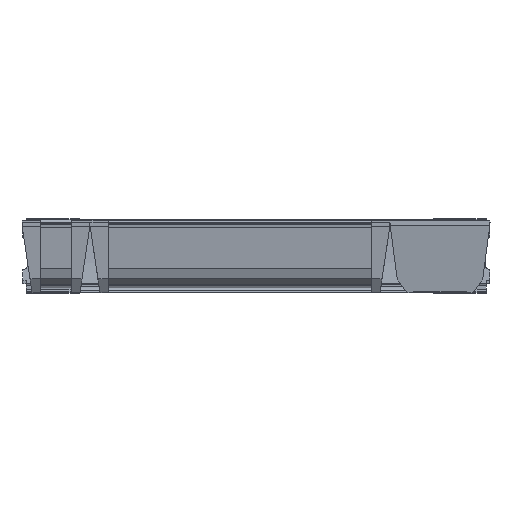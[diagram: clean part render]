
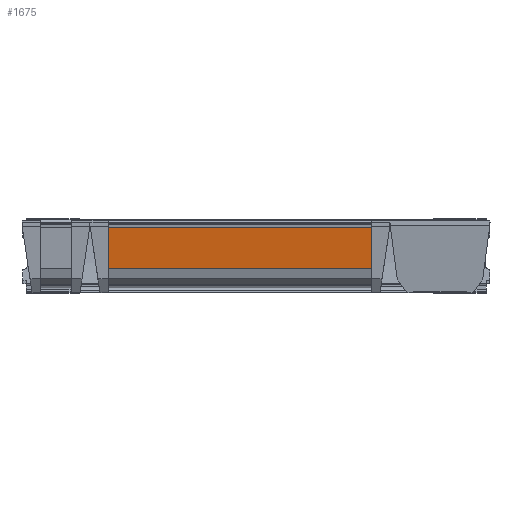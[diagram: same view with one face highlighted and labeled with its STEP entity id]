
A CAD part, left-side view. The second image highlights one B-rep face of the part: STEP entity #1675.
In plain terms, the highlighted planar face has unit normal (-0.991, 0, -0.131).
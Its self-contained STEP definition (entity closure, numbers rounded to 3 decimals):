
#128 = AXIS2_PLACEMENT_3D ( 'NONE', #6803, #6828, #6831 ) ;
#1675 = ADVANCED_FACE ( 'NONE', ( #35477 ), #6761, .F. ) ;
#1890 = ORIENTED_EDGE ( 'NONE', *, *, #52773, .F. ) ;
#1898 = ORIENTED_EDGE ( 'NONE', *, *, #52761, .F. ) ;
#1900 = ORIENTED_EDGE ( 'NONE', *, *, #52767, .T. ) ;
#1902 = ORIENTED_EDGE ( 'NONE', *, *, #52778, .F. ) ;
#6761 = PLANE ( 'NONE',  #128 ) ;
#6803 = CARTESIAN_POINT ( 'NONE',  ( 8.199, 351., 21.942 ) ) ;
#6828 = DIRECTION ( 'NONE',  ( 0.991, 0., 0.131 ) ) ;
#6831 = DIRECTION ( 'NONE',  ( 0.131, 0., -0.991 ) ) ;
#23907 = LINE ( 'NONE', #39297, #23916 ) ;
#23916 = VECTOR ( 'NONE', #39301, 1000. ) ;
#23919 = LINE ( 'NONE', #39298, #23927 ) ;
#23927 = VECTOR ( 'NONE', #39314, 1000. ) ;
#23934 = LINE ( 'NONE', #39320, #23936 ) ;
#23936 = VECTOR ( 'NONE', #39329, 1000. ) ;
#23943 = LINE ( 'NONE', #39328, #23945 ) ;
#23945 = VECTOR ( 'NONE', #39339, 1000. ) ;
#27455 = VERTEX_POINT ( 'NONE', #55771 ) ;
#27462 = VERTEX_POINT ( 'NONE', #55778 ) ;
#27594 = VERTEX_POINT ( 'NONE', #54274 ) ;
#27651 = VERTEX_POINT ( 'NONE', #54331 ) ;
#35477 = FACE_OUTER_BOUND ( 'NONE', #52459, .T. ) ;
#39297 = CARTESIAN_POINT ( 'NONE',  ( 8.199, 107., 21.942 ) ) ;
#39298 = CARTESIAN_POINT ( 'NONE',  ( 8.199, 351., 21.942 ) ) ;
#39301 = DIRECTION ( 'NONE',  ( 0.131, 0., -0.991 ) ) ;
#39314 = DIRECTION ( 'NONE',  ( 0., -1., 0. ) ) ;
#39320 = CARTESIAN_POINT ( 'NONE',  ( 2.926, 351., 61.998 ) ) ;
#39328 = CARTESIAN_POINT ( 'NONE',  ( 8.199, 345.5, 21.942 ) ) ;
#39329 = DIRECTION ( 'NONE',  ( 0., -1., 0. ) ) ;
#39339 = DIRECTION ( 'NONE',  ( -0.131, 0., 0.991 ) ) ;
#52459 = EDGE_LOOP ( 'NONE', ( #1902, #1900, #1898, #1890 ) ) ;
#52761 = EDGE_CURVE ( 'NONE', #27462, #27651, #23907, .T. ) ;
#52767 = EDGE_CURVE ( 'NONE', #27594, #27651, #23919, .T. ) ;
#52773 = EDGE_CURVE ( 'NONE', #27455, #27462, #23934, .T. ) ;
#52778 = EDGE_CURVE ( 'NONE', #27594, #27455, #23943, .T. ) ;
#54274 = CARTESIAN_POINT ( 'NONE',  ( 8.199, 345.5, 21.942 ) ) ;
#54331 = CARTESIAN_POINT ( 'NONE',  ( 8.199, 107., 21.942 ) ) ;
#55771 = CARTESIAN_POINT ( 'NONE',  ( 2.926, 345.5, 61.998 ) ) ;
#55778 = CARTESIAN_POINT ( 'NONE',  ( 2.926, 107., 61.998 ) ) ;
